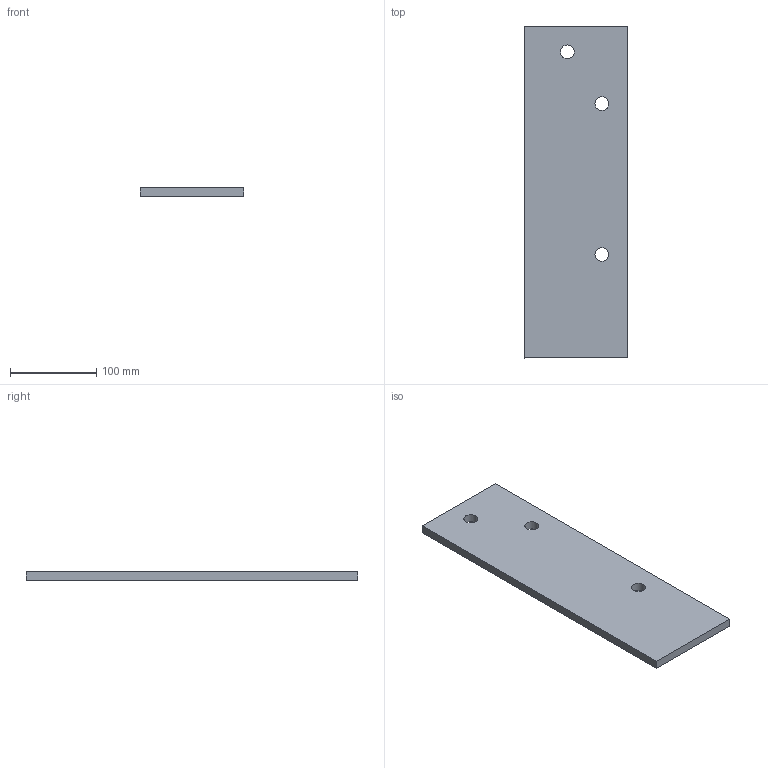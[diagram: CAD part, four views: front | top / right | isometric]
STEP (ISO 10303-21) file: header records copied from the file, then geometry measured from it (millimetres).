
FILE_DESCRIPTION(/* description */ (''),/* implementation_level */ '2;1');
FILE_NAME(/* name */ 'Pos128-Plaatwerk D= 10-S235JRG2-3st',/* time_stamp */ '2024-08-06T13:37:44+02:00',/* author */ (''),/* organization */ (''),/* preprocessor_version */ 'ST-DEVELOPER v16.5',/* originating_system */ 'HiCAD 2024 2901.2 Build 361',/* authorisation */ '');
FILE_SCHEMA (('AUTOMOTIVE_DESIGN { 1 0 10303 214 1 1 1 1 }'));
Length unit declared in the file: millimetre
Products named in the file (1): Pos128-Plaatwerk D= 10-S235JRG2-3st
Bounding box: 120 x 385 x 10 mm (x, y, z)
Volume: 455968.1 mm3; surface area: 102801.6 mm2
Topology: 1 solids, 1 shells, 9 faces, 23 edges, 16 vertices
Faces by surface type: plane 6, cylinder 3
Full cylindrical faces by diameter (mm): 16 x3
Entity records: 456 total; most frequent: DIRECTION 42, CARTESIAN_POINT 41, PRESENTATION_STYLE_ASSIGNMENT 37, COLOUR_RGB 37, DRAUGHTING_PRE_DEFINED_CURVE_FONT 36, CURVE_STYLE 36, OVER_RIDING_STYLED_ITEM 36, ORIENTED_EDGE 36
